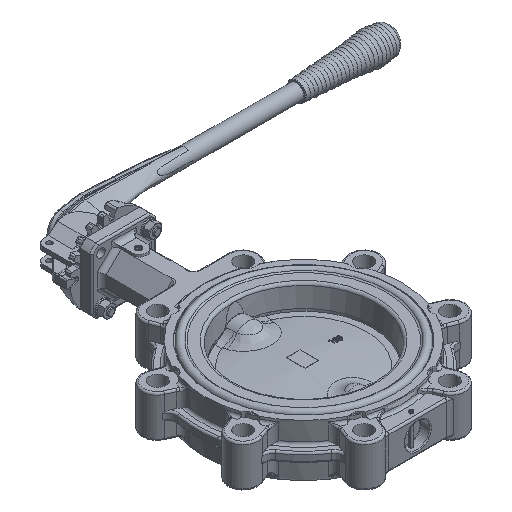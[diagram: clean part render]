
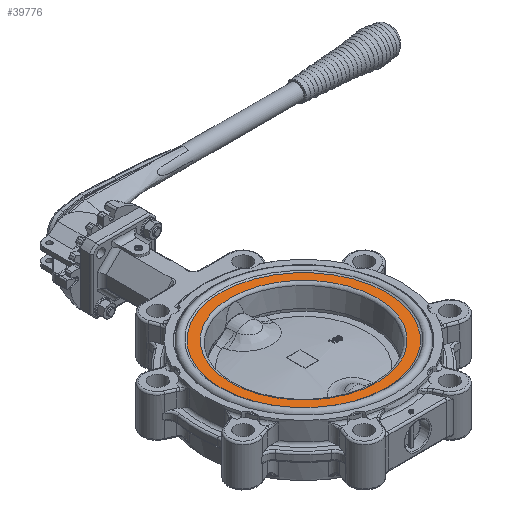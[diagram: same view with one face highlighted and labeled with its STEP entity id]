
A CAD part, isometric view. The second image highlights one B-rep face of the part: STEP entity #39776.
In plain terms, the highlighted planar face has unit normal (0, 0, 1).
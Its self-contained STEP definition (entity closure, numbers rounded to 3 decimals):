
#38826=CARTESIAN_POINT('',(78.727,0.,27.75));
#38827=VERTEX_POINT('',#38826);
#38828=CARTESIAN_POINT('',(0.,0.,27.75));
#38829=DIRECTION('',(0.0,0.0,-1.0));
#38830=DIRECTION('',(1.0,0.0,0.0));
#38831=AXIS2_PLACEMENT_3D('',#38828,#38829,#38830);
#38832=CIRCLE('',#38831,78.727);
#38833=EDGE_CURVE('',#38827,#38827,#38832,.T.);
#39757=CARTESIAN_POINT('',(0.,-88.827,27.75));
#39758=DIRECTION('',(0.0,0.0,-1.0));
#39759=DIRECTION('',(-1.0,0.0,0.0));
#39760=AXIS2_PLACEMENT_3D('',#39757,#39758,#39759);
#39761=PLANE('',#39760);
#39762=CARTESIAN_POINT('',(-88.827,0.,27.75));
#39763=VERTEX_POINT('',#39762);
#39764=CARTESIAN_POINT('',(0.,0.,27.75));
#39765=DIRECTION('',(0.0,0.0,1.0));
#39766=DIRECTION('',(-1.0,0.0,0.0));
#39767=AXIS2_PLACEMENT_3D('',#39764,#39765,#39766);
#39768=CIRCLE('',#39767,88.827);
#39769=EDGE_CURVE('',#39763,#39763,#39768,.T.);
#39770=ORIENTED_EDGE('',*,*,#39769,.T.);
#39771=EDGE_LOOP('',(#39770));
#39772=FACE_OUTER_BOUND('',#39771,.T.);
#39773=ORIENTED_EDGE('',*,*,#38833,.T.);
#39774=EDGE_LOOP('',(#39773));
#39775=FACE_BOUND('',#39774,.T.);
#39776=ADVANCED_FACE('',(#39772,#39775),#39761,.F.);
